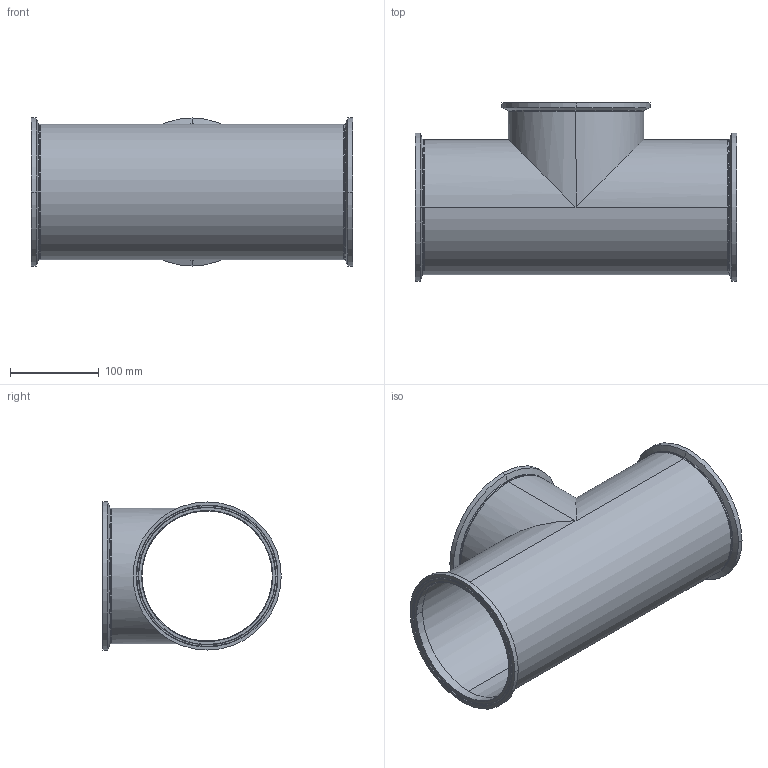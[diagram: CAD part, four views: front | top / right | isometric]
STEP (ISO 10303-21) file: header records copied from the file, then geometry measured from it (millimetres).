
FILE_DESCRIPTION (( 'STEP AP214' ), '1' );
FILE_NAME ('TEG7S6L6.0-...STEP', '2016-05-24T12:28:56', ( 'eran' ), ( '' ), 'SwSTEP 2.0', 'SolidWorks 2016', '' );
FILE_SCHEMA (( 'AUTOMOTIVE_DESIGN' ));
Length unit declared in the file: millimetre
Products named in the file (1): TEG7S6L6.0-..
Bounding box: 362 x 200.94 x 166.88 mm (x, y, z)
Volume: 567112.4 mm3; surface area: 393054.4 mm2
Topology: 4 solids, 4 shells, 88 faces, 220 edges, 142 vertices
Faces by surface type: bspline 30, cylinder 28, cone 18, plane 12
Entity records: 6898 total; most frequent: CARTESIAN_POINT 4744, DIRECTION 460, ORIENTED_EDGE 440, EDGE_CURVE 220, AXIS2_PLACEMENT_3D 206, CIRCLE 147, VERTEX_POINT 142, EDGE_LOOP 100
